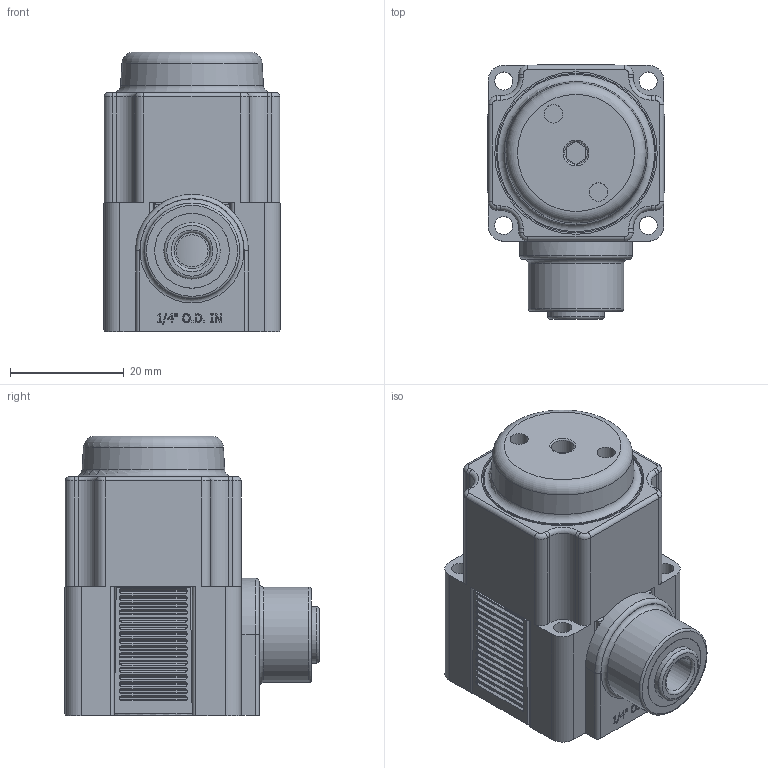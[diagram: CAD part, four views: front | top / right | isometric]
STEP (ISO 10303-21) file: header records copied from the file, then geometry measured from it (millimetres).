
FILE_DESCRIPTION(/* description */ (''),/* implementation_level */ '2;1');
FILE_NAME(/* name */ 'K:\Normteile INVENTOR\Air-Logic\Regulators\PR7000\PR 7___ 5 Push-In Fitting for 1''4 O.D. Tube In.igs.ipt.stp',/* time_stamp */ '2020-05-27T10:54:05+02:00',/* author */ ('Paul'),/* organization */ (''),/* preprocessor_version */ 'ST-DEVELOPER v18',/* originating_system */ 'Autodesk Inventor 2020',/* authorisation */ '');
FILE_SCHEMA (('AUTOMOTIVE_DESIGN { 1 0 10303 214 3 1 1 }'));
Length unit declared in the file: inch
Products named in the file (1): PR 7___ 5 Push-In Fitting for 1'4 O.D. Tube In.igs
Bounding box: 31.19 x 44.8 x 49.15 mm (x, y, z)
Volume: 42195.6 mm3; surface area: 14113.5 mm2
Topology: 1 solids, 1 shells, 698 faces, 1802 edges, 1179 vertices
Faces by surface type: plane 380, cylinder 253, bspline 39, torus 24, cone 2
Full cylindrical faces by diameter (mm): 3.175 x4, 3.226 x2, 4.013 x1, 5.639 x1, 6.35 x1, 9.169 x1, 9.398 x1, 9.906 x1, 12.903 x1, 13.132 x1, 13.144 x1, 16.764 x1, 26.264 x1, 28.047 x1, 28.575 x1
Entity records: 23699 total; most frequent: CARTESIAN_POINT 5498, DIRECTION 3745, ORIENTED_EDGE 3604, EDGE_CURVE 1802, AXIS2_PLACEMENT_3D 1421, VERTEX_POINT 1179, LINE 903, VECTOR 903
